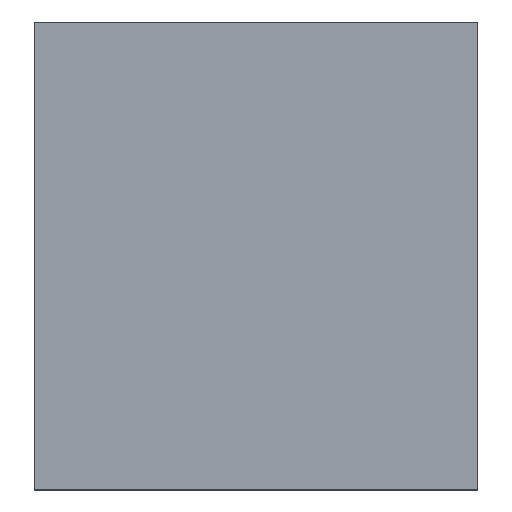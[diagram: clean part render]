
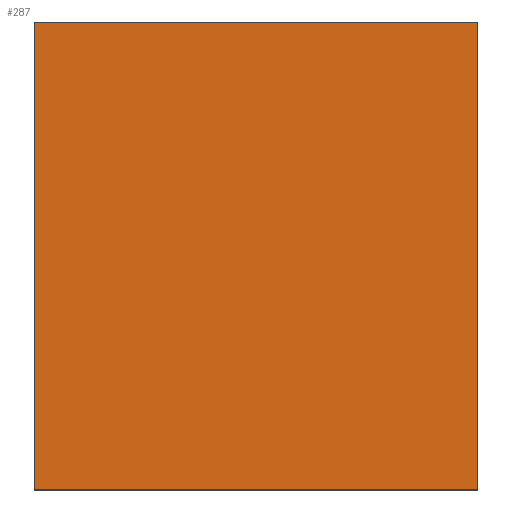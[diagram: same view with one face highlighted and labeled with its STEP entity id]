
A CAD part, top view. The second image highlights one B-rep face of the part: STEP entity #287.
In plain terms, the highlighted planar face has unit normal (0, 0, 1).
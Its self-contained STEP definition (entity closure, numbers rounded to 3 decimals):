
#149=ORIENTED_EDGE('',*,*,#206,.T.);
#150=ORIENTED_EDGE('',*,*,#207,.F.);
#151=ORIENTED_EDGE('',*,*,#203,.F.);
#152=ORIENTED_EDGE('',*,*,#208,.T.);
#171=VECTOR('',#231,1.);
#174=VECTOR('',#236,1.);
#175=VECTOR('',#237,1.);
#176=VECTOR('',#238,1.);
#183=LINE('',#259,#171);
#186=LINE('',#265,#174);
#187=LINE('',#266,#175);
#188=LINE('',#267,#176);
#195=VERTEX_POINT('',#257);
#196=VERTEX_POINT('',#258);
#197=VERTEX_POINT('',#263);
#198=VERTEX_POINT('',#264);
#203=EDGE_CURVE('',#195,#196,#183,.T.);
#206=EDGE_CURVE('',#197,#198,#186,.T.);
#207=EDGE_CURVE('',#196,#198,#187,.T.);
#208=EDGE_CURVE('',#195,#197,#188,.T.);
#213=EDGE_LOOP('',(#149,#150,#151,#152));
#219=FACE_BOUND('',#213,.T.);
#231=DIRECTION('',(-1280.,0.,0.));
#234=DIRECTION('',(0.,0.,1.));
#235=DIRECTION('',(0.,-1.,0.));
#236=DIRECTION('',(-1280.,0.,0.));
#237=DIRECTION('',(0.,1350.,0.));
#238=DIRECTION('',(0.,1350.,0.));
#257=CARTESIAN_POINT('',(1280.,0.,4.19));
#258=CARTESIAN_POINT('',(0.,0.,4.19));
#259=CARTESIAN_POINT('',(1280.,0.,4.19));
#262=CARTESIAN_POINT('',(1280.,1350.,4.19));
#263=CARTESIAN_POINT('',(1280.,1350.,4.19));
#264=CARTESIAN_POINT('',(0.,1350.,4.19));
#265=CARTESIAN_POINT('',(1280.,1350.,4.19));
#266=CARTESIAN_POINT('',(0.,0.,4.19));
#267=CARTESIAN_POINT('',(1280.,0.,4.19));
#275=AXIS2_PLACEMENT_3D('',#262,#234,#235);
#281=PLANE('',#275);
#287=ADVANCED_FACE('',(#219),#281,.T.);
